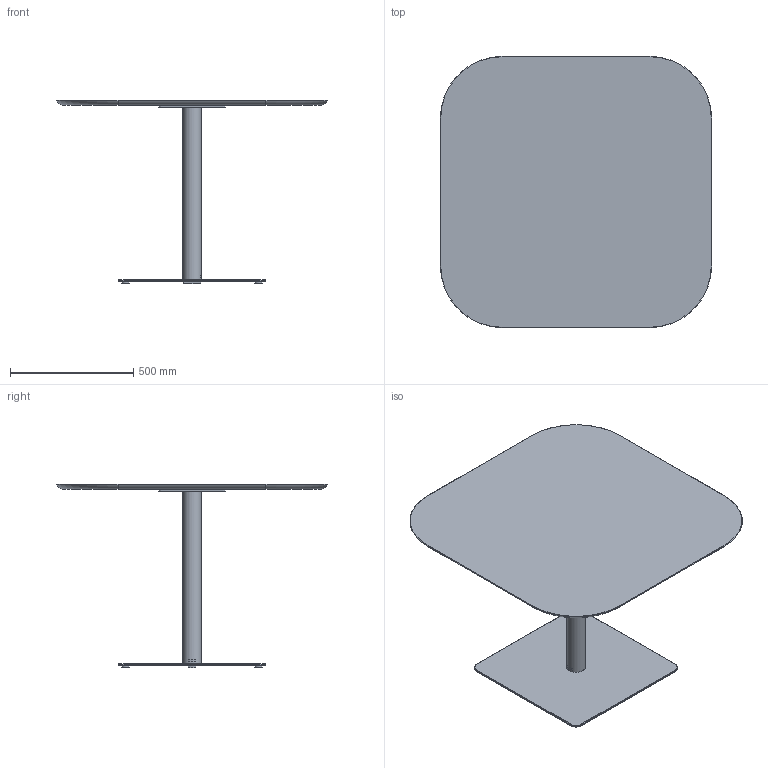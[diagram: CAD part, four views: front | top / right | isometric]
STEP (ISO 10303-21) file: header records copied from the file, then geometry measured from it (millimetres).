
FILE_DESCRIPTION( ('This file contains a STEP AP42 implementation' ,'as created by ZW3D STEP Interface translator.') ,'2;1' );
FILE_NAME( 'Henri - B_Carré - F2 - M3 - 1100 x 1100 x 750.stp' ,'24 912.165620', (''), ('ZWCAD Software Co.'), 'Version 1.0', 'ZW3D to STEP translator', '' );
FILE_SCHEMA(('AUTOMOTIVE_DESIGN { 1 0 10303 214 1 1 1 1 }'));
Length unit declared in the file: millimetre
Products named in the file (14): 0; PIED BISTROT PARAMETRIQUE_; COLONNE ACIER Ø76 V.02_; TUB-D076-02_; PLA-R76B-01_; CROIX ACIER 370 V.02_; CRX-X370-02_; SOCLE ACIER L 600x600 V.02_; SCL-R600-02_; PLA-R30A-01_; PLA-R30A-01; WUERTH 0276063020 Euro-screw 6.3x2 Verzinkt_; PLATEAU BISTROT PARAMETRIQUE_; insert_m6_13_
Assembly tree (22 placements, depth 3):
  0
  PIED BISTROT PARAMETRIQUE_
    COLONNE ACIER Ø76 V.02_
      TUB-D076-02_
      PLA-R76B-01_  x2
    CROIX ACIER 370 V.02_
      CRX-X370-02_
    SOCLE ACIER L 600x600 V.02_
      SCL-R600-02_
      PLA-R30A-01_
      PLA-R30A-01  x3
    WUERTH 0276063020 Euro-screw 6.3x2 Verzinkt_
    PLATEAU BISTROT PARAMETRIQUE_
      insert_m6_13_  x8
Bounding box: 1100 x 1100 x 744 mm (x, y, z)
Volume: 26326690.4 mm3; surface area: 3600175.2 mm2
Topology: 19 solids, 19 shells, 537 faces, 1310 edges, 822 vertices
Faces by surface type: plane 258, bspline 121, cylinder 102, cone 51, torus 5
Full cylindrical faces by diameter (mm): 4.88 x1, 6 x8, 6.3 x1, 8 x45, 12 x2, 14 x2, 30 x4, 72 x1, 76 x1
Entity records: 12318 total; most frequent: CARTESIAN_POINT 3396, ORIENTED_EDGE 1624, DIRECTION 1527, EDGE_CURVE 812, VERTEX_POINT 518, AXIS2_PLACEMENT_3D 511, VECTOR 505, LINE 505
